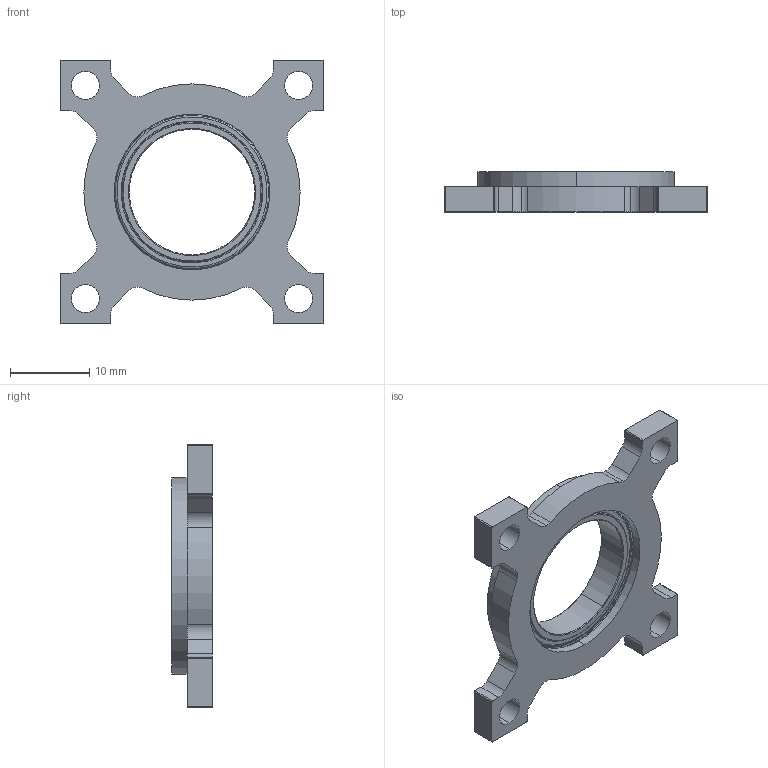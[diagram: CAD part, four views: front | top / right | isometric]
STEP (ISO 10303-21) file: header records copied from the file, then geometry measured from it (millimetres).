
FILE_DESCRIPTION (( 'STEP AP203' ), '1' );
FILE_NAME ('535122 assembly.STEP', '2016-10-10T14:27:41', ( '' ), ( '' ), 'SwSTEP 2.0', 'SolidWorks 2014', '' );
FILE_SCHEMA (( 'CONFIG_CONTROL_DESIGN' ));
Length unit declared in the file: inch
Products named in the file (3): 535122 assembly; 535122; 535028
Assembly tree (2 placements, depth 2):
  535122 assembly
    535122
    535028
Bounding box: 33.27 x 5.09 x 33.27 mm (x, y, z)
Volume: 2190.5 mm3; surface area: 3249.8 mm2
Topology: 4 solids, 4 shells, 153 faces, 367 edges, 234 vertices
Faces by surface type: cylinder 69, plane 44, cone 20, torus 20
Entity records: 4842 total; most frequent: DIRECTION 889, CARTESIAN_POINT 759, ORIENTED_EDGE 734, EDGE_CURVE 367, AXIS2_PLACEMENT_3D 364, VERTEX_POINT 234, CIRCLE 206, EDGE_LOOP 177
